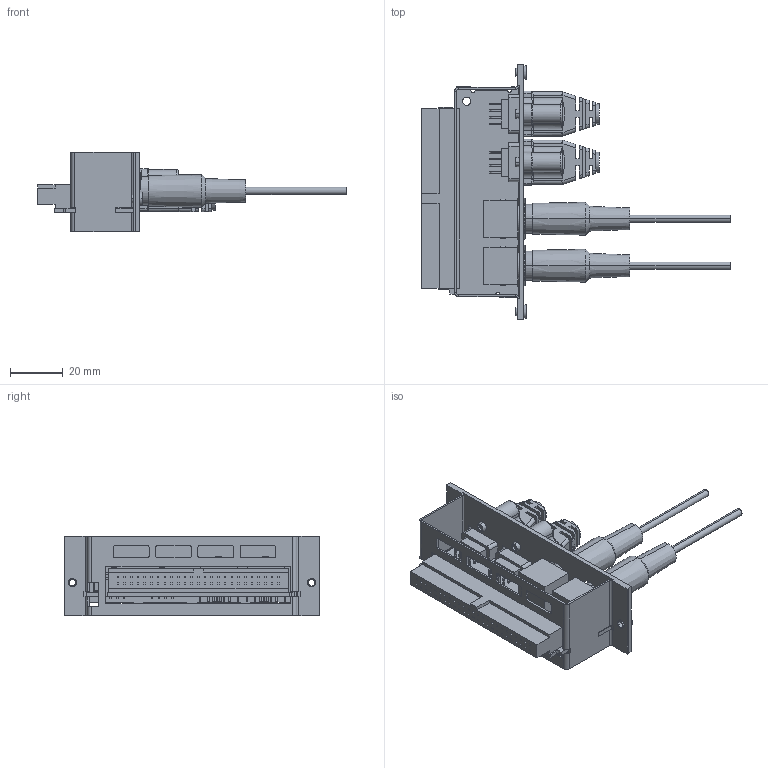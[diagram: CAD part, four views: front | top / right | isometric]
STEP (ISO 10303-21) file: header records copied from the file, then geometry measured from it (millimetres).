
FILE_DESCRIPTION((''),'2;1');
FILE_NAME('CU_SCXI-1362_ADAPTER','2011-08-15T',('jjorden'),(''),'PRO/ENGINEER BY PARAMETRIC TECHNOLOGY CORPORATION, 2010230','PRO/ENGINEER BY PARAMETRIC TECHNOLOGY CORPORATION, 2010230','');
FILE_SCHEMA(('CONFIG_CONTROL_DESIGN'));
Length unit declared in the file: inch
Products named in the file (1): CU_SCXI-1362_ADAPTER
Bounding box: 117.04 x 96.79 x 30.18 mm (x, y, z)
Volume: 38753.3 mm3; surface area: 30512.6 mm2
Topology: 1 solids, 1 shells, 1323 faces, 3449 edges, 2240 vertices
Faces by surface type: plane 990, cylinder 257, bspline 54, cone 12, sphere 8, torus 2
Entity records: 44595 total; most frequent: CARTESIAN_POINT 12160, ORIENTED_EDGE 6882, DIRECTION 6243, EDGE_CURVE 3441, VECTOR 2713, LINE 2713, VERTEX_POINT 2240, AXIS2_PLACEMENT_3D 1765
